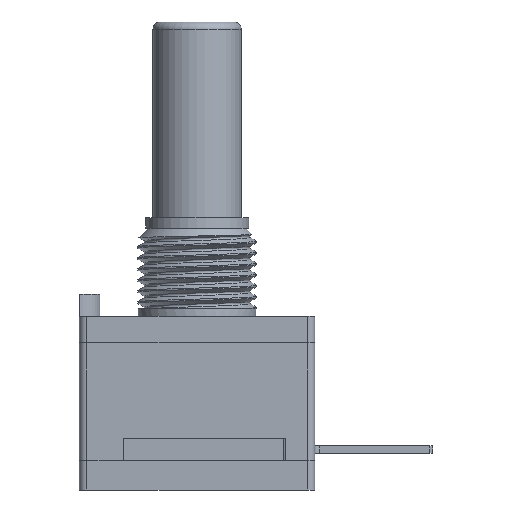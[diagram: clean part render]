
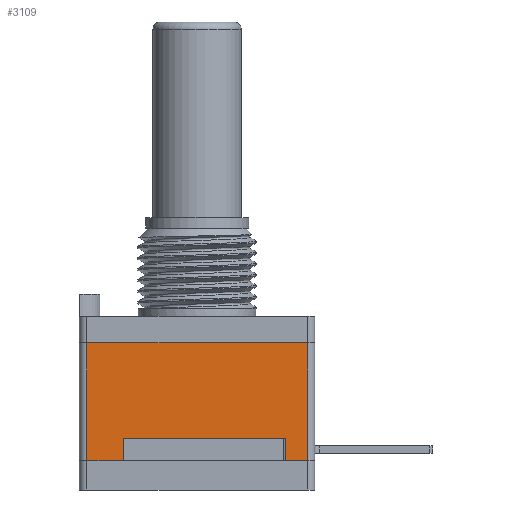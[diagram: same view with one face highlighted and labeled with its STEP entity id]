
A CAD part, left-side view. The second image highlights one B-rep face of the part: STEP entity #3109.
In plain terms, the highlighted planar face has unit normal (-1, 0, 0).
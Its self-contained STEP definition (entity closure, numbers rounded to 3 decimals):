
#468 = PLANE('',#469);
#469 = AXIS2_PLACEMENT_3D('',#470,#471,#472);
#470 = CARTESIAN_POINT('',(-8.,-8.,-11.8));
#471 = DIRECTION('',(1.,0.,0.));
#472 = DIRECTION('',(0.,0.,1.));
#1476 = EDGE_CURVE('',#1477,#1479,#1481,.T.);
#1477 = VERTEX_POINT('',#1478);
#1478 = CARTESIAN_POINT('',(-8.,-7.5,-9.8));
#1479 = VERTEX_POINT('',#1480);
#1480 = CARTESIAN_POINT('',(-8.,-6.,-9.8));
#1481 = SURFACE_CURVE('',#1482,(#1486,#1493),.PCURVE_S1.);
#1482 = LINE('',#1483,#1484);
#1483 = CARTESIAN_POINT('',(-8.,-8.,-9.8));
#1484 = VECTOR('',#1485,1.);
#1485 = DIRECTION('',(0.,1.,0.));
#1486 = PCURVE('',#468,#1487);
#1487 = DEFINITIONAL_REPRESENTATION('',(#1488),#1492);
#1488 = LINE('',#1489,#1490);
#1489 = CARTESIAN_POINT('',(2.,0.));
#1490 = VECTOR('',#1491,1.);
#1491 = DIRECTION('',(0.,-1.));
#1492 = ( GEOMETRIC_REPRESENTATION_CONTEXT(2) 
PARAMETRIC_REPRESENTATION_CONTEXT() REPRESENTATION_CONTEXT('2D SPACE',''
  ) );
#1493 = PCURVE('',#1494,#1499);
#1494 = PLANE('',#1495);
#1495 = AXIS2_PLACEMENT_3D('',#1496,#1497,#1498);
#1496 = CARTESIAN_POINT('',(-8.,-8.,-9.8));
#1497 = DIRECTION('',(1.,0.,0.));
#1498 = DIRECTION('',(0.,0.,1.));
#1499 = DEFINITIONAL_REPRESENTATION('',(#1500),#1504);
#1500 = LINE('',#1501,#1502);
#1501 = CARTESIAN_POINT('',(0.,0.));
#1502 = VECTOR('',#1503,1.);
#1503 = DIRECTION('',(0.,-1.));
#1504 = ( GEOMETRIC_REPRESENTATION_CONTEXT(2) 
PARAMETRIC_REPRESENTATION_CONTEXT() REPRESENTATION_CONTEXT('2D SPACE',''
  ) );
#1529 = VERTEX_POINT('',#1530);
#1530 = CARTESIAN_POINT('',(-8.,7.5,-9.8));
#1551 = EDGE_CURVE('',#1552,#1529,#1554,.T.);
#1552 = VERTEX_POINT('',#1553);
#1553 = CARTESIAN_POINT('',(-8.,5.,-9.8));
#1554 = SURFACE_CURVE('',#1555,(#1559,#1566),.PCURVE_S1.);
#1555 = LINE('',#1556,#1557);
#1556 = CARTESIAN_POINT('',(-8.,-8.,-9.8));
#1557 = VECTOR('',#1558,1.);
#1558 = DIRECTION('',(0.,1.,0.));
#1559 = PCURVE('',#468,#1560);
#1560 = DEFINITIONAL_REPRESENTATION('',(#1561),#1565);
#1561 = LINE('',#1562,#1563);
#1562 = CARTESIAN_POINT('',(2.,0.));
#1563 = VECTOR('',#1564,1.);
#1564 = DIRECTION('',(0.,-1.));
#1565 = ( GEOMETRIC_REPRESENTATION_CONTEXT(2) 
PARAMETRIC_REPRESENTATION_CONTEXT() REPRESENTATION_CONTEXT('2D SPACE',''
  ) );
#1566 = PCURVE('',#1494,#1567);
#1567 = DEFINITIONAL_REPRESENTATION('',(#1568),#1572);
#1568 = LINE('',#1569,#1570);
#1569 = CARTESIAN_POINT('',(0.,0.));
#1570 = VECTOR('',#1571,1.);
#1571 = DIRECTION('',(0.,-1.));
#1572 = ( GEOMETRIC_REPRESENTATION_CONTEXT(2) 
PARAMETRIC_REPRESENTATION_CONTEXT() REPRESENTATION_CONTEXT('2D SPACE',''
  ) );
#1590 = PLANE('',#1591);
#1591 = AXIS2_PLACEMENT_3D('',#1592,#1593,#1594);
#1592 = CARTESIAN_POINT('',(-8.,-8.,-9.8));
#1593 = DIRECTION('',(1.,0.,0.));
#1594 = DIRECTION('',(0.,0.,1.));
#1670 = CYLINDRICAL_SURFACE('',#1671,0.5);
#1671 = AXIS2_PLACEMENT_3D('',#1672,#1673,#1674);
#1672 = CARTESIAN_POINT('',(-7.5,-7.5,-9.8));
#1673 = DIRECTION('',(0.,0.,1.));
#1674 = DIRECTION('',(-1.,0.,0.));
#1724 = CYLINDRICAL_SURFACE('',#1725,0.5);
#1725 = AXIS2_PLACEMENT_3D('',#1726,#1727,#1728);
#1726 = CARTESIAN_POINT('',(-7.5,7.5,-9.8));
#1727 = DIRECTION('',(0.,0.,1.));
#1728 = DIRECTION('',(-1.,0.,0.));
#3109 = ADVANCED_FACE('',(#3110),#1494,.F.);
#3110 = FACE_BOUND('',#3111,.F.);
#3111 = EDGE_LOOP('',(#3112,#3142,#3163,#3164,#3190,#3216,#3238,#3258,
    #3259));
#3112 = ORIENTED_EDGE('',*,*,#3113,.F.);
#3113 = EDGE_CURVE('',#3114,#3116,#3118,.T.);
#3114 = VERTEX_POINT('',#3115);
#3115 = CARTESIAN_POINT('',(-8.,-7.5,-1.8));
#3116 = VERTEX_POINT('',#3117);
#3117 = CARTESIAN_POINT('',(-8.,7.5,-1.8));
#3118 = SURFACE_CURVE('',#3119,(#3123,#3130),.PCURVE_S1.);
#3119 = LINE('',#3120,#3121);
#3120 = CARTESIAN_POINT('',(-8.,-8.,-1.8));
#3121 = VECTOR('',#3122,1.);
#3122 = DIRECTION('',(0.,1.,0.));
#3123 = PCURVE('',#1494,#3124);
#3124 = DEFINITIONAL_REPRESENTATION('',(#3125),#3129);
#3125 = LINE('',#3126,#3127);
#3126 = CARTESIAN_POINT('',(8.,0.));
#3127 = VECTOR('',#3128,1.);
#3128 = DIRECTION('',(0.,-1.));
#3129 = ( GEOMETRIC_REPRESENTATION_CONTEXT(2) 
PARAMETRIC_REPRESENTATION_CONTEXT() REPRESENTATION_CONTEXT('2D SPACE',''
  ) );
#3130 = PCURVE('',#3131,#3136);
#3131 = PLANE('',#3132);
#3132 = AXIS2_PLACEMENT_3D('',#3133,#3134,#3135);
#3133 = CARTESIAN_POINT('',(-8.,-8.,-1.8));
#3134 = DIRECTION('',(1.,0.,0.));
#3135 = DIRECTION('',(0.,0.,1.));
#3136 = DEFINITIONAL_REPRESENTATION('',(#3137),#3141);
#3137 = LINE('',#3138,#3139);
#3138 = CARTESIAN_POINT('',(0.,0.));
#3139 = VECTOR('',#3140,1.);
#3140 = DIRECTION('',(0.,-1.));
#3141 = ( GEOMETRIC_REPRESENTATION_CONTEXT(2) 
PARAMETRIC_REPRESENTATION_CONTEXT() REPRESENTATION_CONTEXT('2D SPACE',''
  ) );
#3142 = ORIENTED_EDGE('',*,*,#3143,.F.);
#3143 = EDGE_CURVE('',#1477,#3114,#3144,.T.);
#3144 = SURFACE_CURVE('',#3145,(#3149,#3156),.PCURVE_S1.);
#3145 = LINE('',#3146,#3147);
#3146 = CARTESIAN_POINT('',(-8.,-7.5,-9.8));
#3147 = VECTOR('',#3148,1.);
#3148 = DIRECTION('',(0.,0.,1.));
#3149 = PCURVE('',#1494,#3150);
#3150 = DEFINITIONAL_REPRESENTATION('',(#3151),#3155);
#3151 = LINE('',#3152,#3153);
#3152 = CARTESIAN_POINT('',(0.,-0.5));
#3153 = VECTOR('',#3154,1.);
#3154 = DIRECTION('',(1.,0.));
#3155 = ( GEOMETRIC_REPRESENTATION_CONTEXT(2) 
PARAMETRIC_REPRESENTATION_CONTEXT() REPRESENTATION_CONTEXT('2D SPACE',''
  ) );
#3156 = PCURVE('',#1670,#3157);
#3157 = DEFINITIONAL_REPRESENTATION('',(#3158),#3162);
#3158 = LINE('',#3159,#3160);
#3159 = CARTESIAN_POINT('',(0.,0.));
#3160 = VECTOR('',#3161,1.);
#3161 = DIRECTION('',(0.,1.));
#3162 = ( GEOMETRIC_REPRESENTATION_CONTEXT(2) 
PARAMETRIC_REPRESENTATION_CONTEXT() REPRESENTATION_CONTEXT('2D SPACE',''
  ) );
#3163 = ORIENTED_EDGE('',*,*,#1476,.T.);
#3164 = ORIENTED_EDGE('',*,*,#3165,.T.);
#3165 = EDGE_CURVE('',#1479,#3166,#3168,.T.);
#3166 = VERTEX_POINT('',#3167);
#3167 = CARTESIAN_POINT('',(-8.,-6.,-8.3));
#3168 = SURFACE_CURVE('',#3169,(#3173,#3179),.PCURVE_S1.);
#3169 = LINE('',#3170,#3171);
#3170 = CARTESIAN_POINT('',(-8.,-6.,-10.05));
#3171 = VECTOR('',#3172,1.);
#3172 = DIRECTION('',(0.,0.,1.));
#3173 = PCURVE('',#1494,#3174);
#3174 = DEFINITIONAL_REPRESENTATION('',(#3175),#3178);
#3175 = B_SPLINE_CURVE_WITH_KNOTS('',1,(#3176,#3177),.UNSPECIFIED.,.F.,
  .F.,(2,2),(0.25,1.75),.PIECEWISE_BEZIER_KNOTS.);
#3176 = CARTESIAN_POINT('',(0.,-2.));
#3177 = CARTESIAN_POINT('',(1.5,-2.));
#3178 = ( GEOMETRIC_REPRESENTATION_CONTEXT(2) 
PARAMETRIC_REPRESENTATION_CONTEXT() REPRESENTATION_CONTEXT('2D SPACE',''
  ) );
#3179 = PCURVE('',#3180,#3185);
#3180 = PLANE('',#3181);
#3181 = AXIS2_PLACEMENT_3D('',#3182,#3183,#3184);
#3182 = CARTESIAN_POINT('',(-9.,-6.,-10.3));
#3183 = DIRECTION('',(0.,1.,0.));
#3184 = DIRECTION('',(0.,0.,1.));
#3185 = DEFINITIONAL_REPRESENTATION('',(#3186),#3189);
#3186 = B_SPLINE_CURVE_WITH_KNOTS('',1,(#3187,#3188),.UNSPECIFIED.,.F.,
  .F.,(2,2),(0.25,1.75),.PIECEWISE_BEZIER_KNOTS.);
#3187 = CARTESIAN_POINT('',(0.5,1.));
#3188 = CARTESIAN_POINT('',(2.,1.));
#3189 = ( GEOMETRIC_REPRESENTATION_CONTEXT(2) 
PARAMETRIC_REPRESENTATION_CONTEXT() REPRESENTATION_CONTEXT('2D SPACE',''
  ) );
#3190 = ORIENTED_EDGE('',*,*,#3191,.F.);
#3191 = EDGE_CURVE('',#3192,#3166,#3194,.T.);
#3192 = VERTEX_POINT('',#3193);
#3193 = CARTESIAN_POINT('',(-8.,-5.9,-8.3));
#3194 = SURFACE_CURVE('',#3195,(#3199,#3205),.PCURVE_S1.);
#3195 = LINE('',#3196,#3197);
#3196 = CARTESIAN_POINT('',(-8.,-7.,-8.3));
#3197 = VECTOR('',#3198,1.);
#3198 = DIRECTION('',(0.,-1.,0.));
#3199 = PCURVE('',#1494,#3200);
#3200 = DEFINITIONAL_REPRESENTATION('',(#3201),#3204);
#3201 = B_SPLINE_CURVE_WITH_KNOTS('',1,(#3202,#3203),.UNSPECIFIED.,.F.,
  .F.,(2,2),(-12.,-1.),.PIECEWISE_BEZIER_KNOTS.);
#3202 = CARTESIAN_POINT('',(1.5,-13.));
#3203 = CARTESIAN_POINT('',(1.5,-2.));
#3204 = ( GEOMETRIC_REPRESENTATION_CONTEXT(2) 
PARAMETRIC_REPRESENTATION_CONTEXT() REPRESENTATION_CONTEXT('2D SPACE',''
  ) );
#3205 = PCURVE('',#3206,#3211);
#3206 = PLANE('',#3207);
#3207 = AXIS2_PLACEMENT_3D('',#3208,#3209,#3210);
#3208 = CARTESIAN_POINT('',(-9.,-6.,-8.3));
#3209 = DIRECTION('',(0.,0.,1.));
#3210 = DIRECTION('',(1.,0.,0.));
#3211 = DEFINITIONAL_REPRESENTATION('',(#3212),#3215);
#3212 = B_SPLINE_CURVE_WITH_KNOTS('',1,(#3213,#3214),.UNSPECIFIED.,.F.,
  .F.,(2,2),(-12.,-1.),.PIECEWISE_BEZIER_KNOTS.);
#3213 = CARTESIAN_POINT('',(1.,11.));
#3214 = CARTESIAN_POINT('',(1.,0.));
#3215 = ( GEOMETRIC_REPRESENTATION_CONTEXT(2) 
PARAMETRIC_REPRESENTATION_CONTEXT() REPRESENTATION_CONTEXT('2D SPACE',''
  ) );
#3216 = ORIENTED_EDGE('',*,*,#3217,.F.);
#3217 = EDGE_CURVE('',#3218,#3192,#3220,.T.);
#3218 = VERTEX_POINT('',#3219);
#3219 = CARTESIAN_POINT('',(-8.,5.,-8.3));
#3220 = SURFACE_CURVE('',#3221,(#3225,#3231),.PCURVE_S1.);
#3221 = LINE('',#3222,#3223);
#3222 = CARTESIAN_POINT('',(-8.,-7.,-8.3));
#3223 = VECTOR('',#3224,1.);
#3224 = DIRECTION('',(0.,-1.,0.));
#3225 = PCURVE('',#1494,#3226);
#3226 = DEFINITIONAL_REPRESENTATION('',(#3227),#3230);
#3227 = B_SPLINE_CURVE_WITH_KNOTS('',1,(#3228,#3229),.UNSPECIFIED.,.F.,
  .F.,(2,2),(-12.,-1.),.PIECEWISE_BEZIER_KNOTS.);
#3228 = CARTESIAN_POINT('',(1.5,-13.));
#3229 = CARTESIAN_POINT('',(1.5,-2.));
#3230 = ( GEOMETRIC_REPRESENTATION_CONTEXT(2) 
PARAMETRIC_REPRESENTATION_CONTEXT() REPRESENTATION_CONTEXT('2D SPACE',''
  ) );
#3231 = PCURVE('',#1590,#3232);
#3232 = DEFINITIONAL_REPRESENTATION('',(#3233),#3237);
#3233 = LINE('',#3234,#3235);
#3234 = CARTESIAN_POINT('',(1.5,-1.));
#3235 = VECTOR('',#3236,1.);
#3236 = DIRECTION('',(0.,1.));
#3237 = ( GEOMETRIC_REPRESENTATION_CONTEXT(2) 
PARAMETRIC_REPRESENTATION_CONTEXT() REPRESENTATION_CONTEXT('2D SPACE',''
  ) );
#3238 = ORIENTED_EDGE('',*,*,#3239,.F.);
#3239 = EDGE_CURVE('',#1552,#3218,#3240,.T.);
#3240 = SURFACE_CURVE('',#3241,(#3245,#3251),.PCURVE_S1.);
#3241 = LINE('',#3242,#3243);
#3242 = CARTESIAN_POINT('',(-8.,5.,-10.05));
#3243 = VECTOR('',#3244,1.);
#3244 = DIRECTION('',(0.,0.,1.));
#3245 = PCURVE('',#1494,#3246);
#3246 = DEFINITIONAL_REPRESENTATION('',(#3247),#3250);
#3247 = B_SPLINE_CURVE_WITH_KNOTS('',1,(#3248,#3249),.UNSPECIFIED.,.F.,
  .F.,(2,2),(0.25,1.75),.PIECEWISE_BEZIER_KNOTS.);
#3248 = CARTESIAN_POINT('',(0.,-13.));
#3249 = CARTESIAN_POINT('',(1.5,-13.));
#3250 = ( GEOMETRIC_REPRESENTATION_CONTEXT(2) 
PARAMETRIC_REPRESENTATION_CONTEXT() REPRESENTATION_CONTEXT('2D SPACE',''
  ) );
#3251 = PCURVE('',#1590,#3252);
#3252 = DEFINITIONAL_REPRESENTATION('',(#3253),#3257);
#3253 = LINE('',#3254,#3255);
#3254 = CARTESIAN_POINT('',(-0.25,-13.));
#3255 = VECTOR('',#3256,1.);
#3256 = DIRECTION('',(1.,0.));
#3257 = ( GEOMETRIC_REPRESENTATION_CONTEXT(2) 
PARAMETRIC_REPRESENTATION_CONTEXT() REPRESENTATION_CONTEXT('2D SPACE',''
  ) );
#3258 = ORIENTED_EDGE('',*,*,#1551,.T.);
#3259 = ORIENTED_EDGE('',*,*,#3260,.T.);
#3260 = EDGE_CURVE('',#1529,#3116,#3261,.T.);
#3261 = SURFACE_CURVE('',#3262,(#3266,#3273),.PCURVE_S1.);
#3262 = LINE('',#3263,#3264);
#3263 = CARTESIAN_POINT('',(-8.,7.5,-9.8));
#3264 = VECTOR('',#3265,1.);
#3265 = DIRECTION('',(0.,0.,1.));
#3266 = PCURVE('',#1494,#3267);
#3267 = DEFINITIONAL_REPRESENTATION('',(#3268),#3272);
#3268 = LINE('',#3269,#3270);
#3269 = CARTESIAN_POINT('',(0.,-15.5));
#3270 = VECTOR('',#3271,1.);
#3271 = DIRECTION('',(1.,0.));
#3272 = ( GEOMETRIC_REPRESENTATION_CONTEXT(2) 
PARAMETRIC_REPRESENTATION_CONTEXT() REPRESENTATION_CONTEXT('2D SPACE',''
  ) );
#3273 = PCURVE('',#1724,#3274);
#3274 = DEFINITIONAL_REPRESENTATION('',(#3275),#3279);
#3275 = LINE('',#3276,#3277);
#3276 = CARTESIAN_POINT('',(-0.,0.));
#3277 = VECTOR('',#3278,1.);
#3278 = DIRECTION('',(-0.,1.));
#3279 = ( GEOMETRIC_REPRESENTATION_CONTEXT(2) 
PARAMETRIC_REPRESENTATION_CONTEXT() REPRESENTATION_CONTEXT('2D SPACE',''
  ) );
